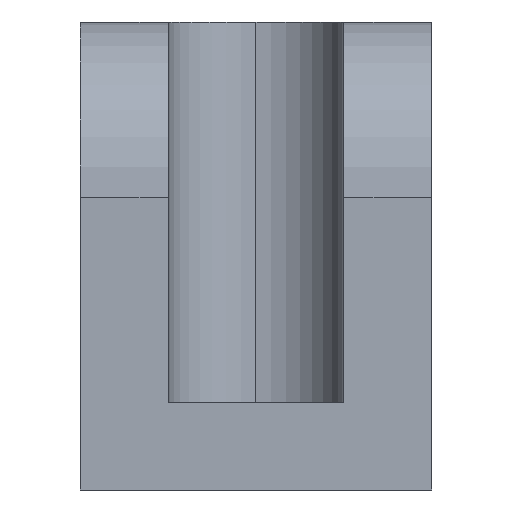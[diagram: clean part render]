
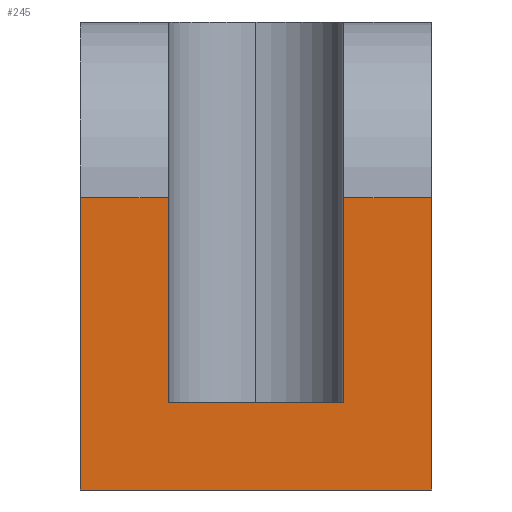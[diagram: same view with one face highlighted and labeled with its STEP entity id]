
A CAD part, left-side view. The second image highlights one B-rep face of the part: STEP entity #245.
In plain terms, the highlighted planar face has unit normal (-1, 0, 0).
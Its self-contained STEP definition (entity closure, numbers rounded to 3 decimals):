
#7 = VERTEX_POINT ( 'NONE', #660 ) ;
#10 = DIRECTION ( 'NONE',  ( 0., 0., 1. ) ) ;
#16 = CARTESIAN_POINT ( 'NONE',  ( 0., 3., -13. ) ) ;
#63 = VERTEX_POINT ( 'NONE', #571 ) ;
#70 = CARTESIAN_POINT ( 'NONE',  ( 0., 6., 0. ) ) ;
#72 = AXIS2_PLACEMENT_3D ( 'NONE', #92, #735, #732 ) ;
#92 = CARTESIAN_POINT ( 'NONE',  ( 0., 6., 0. ) ) ;
#129 = CARTESIAN_POINT ( 'NONE',  ( 0., 3., -13. ) ) ;
#140 = EDGE_CURVE ( 'NONE', #155, #725, #646, .T. ) ;
#141 = ORIENTED_EDGE ( 'NONE', *, *, #672, .T. ) ;
#153 = CARTESIAN_POINT ( 'NONE',  ( 0., 6., -16. ) ) ;
#155 = VERTEX_POINT ( 'NONE', #153 ) ;
#173 = CARTESIAN_POINT ( 'NONE',  ( 0., 3., -13. ) ) ;
#181 = DIRECTION ( 'NONE',  ( 0., -1., 0. ) ) ;
#187 = DIRECTION ( 'NONE',  ( 0., 0., 1. ) ) ;
#189 = DIRECTION ( 'NONE',  ( 0., 1., 0. ) ) ;
#190 = CARTESIAN_POINT ( 'NONE',  ( 0., 6., -6. ) ) ;
#196 = ORIENTED_EDGE ( 'NONE', *, *, #648, .F. ) ;
#199 = CARTESIAN_POINT ( 'NONE',  ( 0., -3., -13. ) ) ;
#215 = DIRECTION ( 'NONE',  ( 0., 0., 1. ) ) ;
#233 = VECTOR ( 'NONE', #215, 1000. ) ;
#235 = VERTEX_POINT ( 'NONE', #16 ) ;
#237 = CARTESIAN_POINT ( 'NONE',  ( 0., -6., -16. ) ) ;
#239 = LINE ( 'NONE', #199, #233 ) ;
#240 = DIRECTION ( 'NONE',  ( 0., -1., 0. ) ) ;
#245 = ADVANCED_FACE ( 'NONE', ( #590 ), #517, .F. ) ;
#250 = VECTOR ( 'NONE', #189, 1000. ) ;
#270 = LINE ( 'NONE', #190, #250 ) ;
#282 = CARTESIAN_POINT ( 'NONE',  ( 0., 6., -16. ) ) ;
#283 = VECTOR ( 'NONE', #187, 1000. ) ;
#295 = VECTOR ( 'NONE', #181, 1000. ) ;
#298 = ORIENTED_EDGE ( 'NONE', *, *, #140, .T. ) ;
#300 = CARTESIAN_POINT ( 'NONE',  ( 0., 6., -6. ) ) ;
#306 = VERTEX_POINT ( 'NONE', #650 ) ;
#312 = VECTOR ( 'NONE', #10, 1000. ) ;
#313 = LINE ( 'NONE', #173, #295 ) ;
#322 = LINE ( 'NONE', #70, #312 ) ;
#324 = LINE ( 'NONE', #637, #283 ) ;
#327 = EDGE_CURVE ( 'NONE', #306, #7, #565, .T. ) ;
#351 = VECTOR ( 'NONE', #714, 1000. ) ;
#353 = LINE ( 'NONE', #129, #351 ) ;
#410 = CARTESIAN_POINT ( 'NONE',  ( 0., 3., -6. ) ) ;
#449 = VERTEX_POINT ( 'NONE', #410 ) ;
#482 = ORIENTED_EDGE ( 'NONE', *, *, #327, .T. ) ;
#486 = ORIENTED_EDGE ( 'NONE', *, *, #638, .F. ) ;
#517 = PLANE ( 'NONE',  #72 ) ;
#556 = VECTOR ( 'NONE', #639, 1000. ) ;
#565 = LINE ( 'NONE', #633, #556 ) ;
#571 = CARTESIAN_POINT ( 'NONE',  ( 0., -3., -13. ) ) ;
#590 = FACE_OUTER_BOUND ( 'NONE', #761, .T. ) ;
#621 = EDGE_CURVE ( 'NONE', #235, #449, #353, .T. ) ;
#625 = VECTOR ( 'NONE', #240, 1000. ) ;
#633 = CARTESIAN_POINT ( 'NONE',  ( 0., 6., -6. ) ) ;
#637 = CARTESIAN_POINT ( 'NONE',  ( 0., -6., 0. ) ) ;
#638 = EDGE_CURVE ( 'NONE', #155, #762, #322, .T. ) ;
#639 = DIRECTION ( 'NONE',  ( 0., 1., 0. ) ) ;
#646 = LINE ( 'NONE', #282, #625 ) ;
#648 = EDGE_CURVE ( 'NONE', #235, #63, #313, .T. ) ;
#650 = CARTESIAN_POINT ( 'NONE',  ( 0., -6., -6. ) ) ;
#654 = EDGE_CURVE ( 'NONE', #725, #306, #324, .T. ) ;
#660 = CARTESIAN_POINT ( 'NONE',  ( 0., -3., -6. ) ) ;
#669 = ORIENTED_EDGE ( 'NONE', *, *, #683, .F. ) ;
#672 = EDGE_CURVE ( 'NONE', #449, #762, #270, .T. ) ;
#683 = EDGE_CURVE ( 'NONE', #63, #7, #239, .T. ) ;
#702 = ORIENTED_EDGE ( 'NONE', *, *, #654, .T. ) ;
#714 = DIRECTION ( 'NONE',  ( 0., 0., 1. ) ) ;
#718 = ORIENTED_EDGE ( 'NONE', *, *, #621, .T. ) ;
#725 = VERTEX_POINT ( 'NONE', #237 ) ;
#732 = DIRECTION ( 'NONE',  ( 0., 0., -1. ) ) ;
#735 = DIRECTION ( 'NONE',  ( 1., 0., 0. ) ) ;
#761 = EDGE_LOOP ( 'NONE', ( #196, #718, #141, #486, #298, #702, #482, #669 ) ) ;
#762 = VERTEX_POINT ( 'NONE', #300 ) ;
